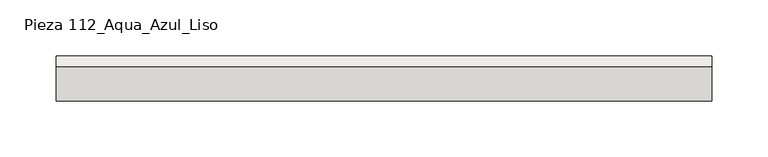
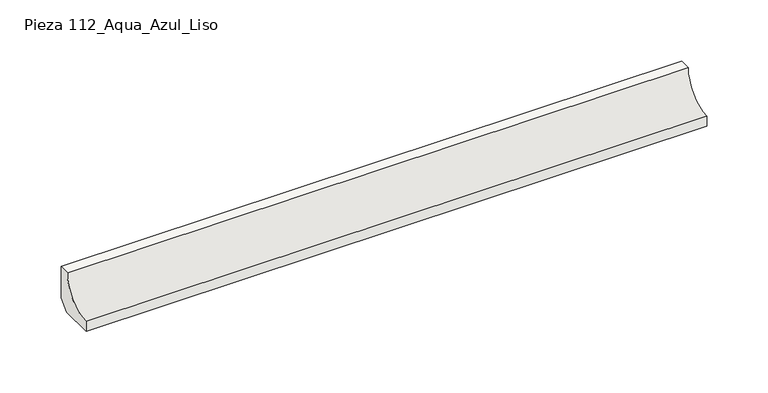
"""IFC4 building model written with IfcOpenShell, lengths in millimetres: slab geometry, ROSA GRES_112 : Pieza 112_Aqua_Azul_Liso."""

from ifc_helpers import new_model, si_unit, point, frame, frame_2d, origin, place, context, project, spatial, polyline, circle_curve, trimmed, segment, composite_curve, outline, extrude, source, transform, mapped, element, save


def pieza_112_aqua_azul_liso_afb2659f(model_context):
    return source(origin(), model_context, "Body", "SweptSolid", [
        extrude(outline(composite_curve([segment(polyline([(0.0, 8.7114978), (-8.7114978, 0.0), (-40.0, 0.0), (-40.0, 9.9734114)]), True, "CONTINUOUS"), segment(trimmed(circle_curve(frame_2d((-39.9955547, 39.9955547)), 30.0221435), [point((-40.0, 9.9734114))], [point((-9.9734114, 40.0))], True, "CARTESIAN"), True, "CONTINUOUS"), segment(polyline([(-9.9734114, 40.0), (0.0, 40.0), (0.0, 8.7114978)]), True, "CONTINUOUS")], self_intersect=False)), frame((0.0, 0.0, 0.0), z_axis=(1.0, 0.0, 0.0), x_axis=(0.0, 1.0, 0.0)), (0.0, 0.0, 1.0), 583.2445096),
    ])


if __name__ == "__main__":
    model = new_model("IFC4")
    model_context = context("Model", 3, world=origin())
    ifc_project = project(units=[si_unit("LENGTHUNIT", "METRE", prefix="MILLI")], contexts=[model_context])
    site = spatial("IfcSite", under=ifc_project)
    building = spatial("IfcBuilding", under=site)
    placement = place(None, origin())
    pieza_112_aqua_azul_liso_shape = pieza_112_aqua_azul_liso_afb2659f(model_context)
    element("IfcSlab", 1, ObjectType="ROSA GRES_112 : Pieza 112_Aqua_Azul_Liso", at=placement, inside=building, context=model_context, shape_type="MappedRepresentation", body=[
        mapped(pieza_112_aqua_azul_liso_shape, transform((0.0, 0.0, 0.0), x_axis=(1.0, 0.0, 0.0), y_axis=(0.0, 1.0, 0.0), z_axis=(0.0, 0.0, 1.0))),
    ])
    save(model, "model.ifc")
